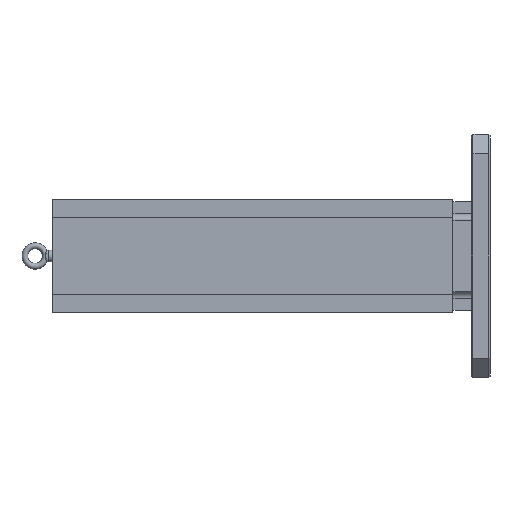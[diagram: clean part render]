
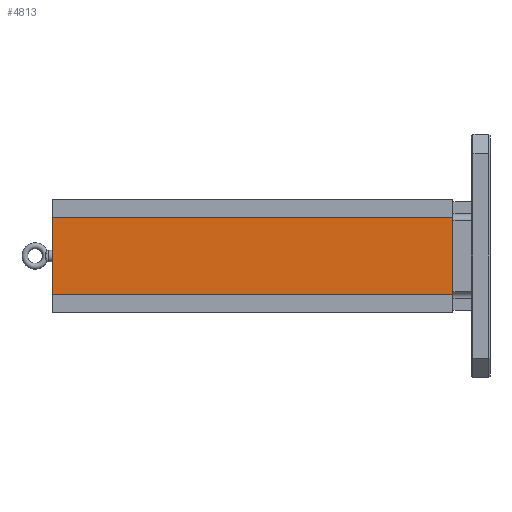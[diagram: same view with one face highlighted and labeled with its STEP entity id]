
A CAD part, left-side view. The second image highlights one B-rep face of the part: STEP entity #4813.
In plain terms, the highlighted planar face has unit normal (-1, 0, 0).
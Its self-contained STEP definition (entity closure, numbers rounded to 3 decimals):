
#121 = VECTOR ( 'NONE', #8504, 1000. ) ;
#544 = DIRECTION ( 'NONE',  ( 0., -1., 0. ) ) ;
#856 = DIRECTION ( 'NONE',  ( 0., 0., -1. ) ) ;
#1040 = FACE_OUTER_BOUND ( 'NONE', #2407, .T. ) ;
#1122 = CARTESIAN_POINT ( 'NONE',  ( -116.992, 862., -79.273 ) ) ;
#1157 = CARTESIAN_POINT ( 'NONE',  ( -116.992, 862., 79.273 ) ) ;
#1287 = VECTOR ( 'NONE', #856, 1000. ) ;
#1944 = EDGE_CURVE ( 'NONE', #5973, #7690, #5229, .T. ) ;
#2308 = CARTESIAN_POINT ( 'NONE',  ( -116.992, 862., 79.273 ) ) ;
#2407 = EDGE_LOOP ( 'NONE', ( #4145, #6854, #3782, #7175 ) ) ;
#3215 = LINE ( 'NONE', #2308, #8549 ) ;
#3782 = ORIENTED_EDGE ( 'NONE', *, *, #7495, .F. ) ;
#4113 = LINE ( 'NONE', #1122, #121 ) ;
#4145 = ORIENTED_EDGE ( 'NONE', *, *, #6615, .F. ) ;
#4225 = CARTESIAN_POINT ( 'NONE',  ( -116.992, 862., -79.273 ) ) ;
#4813 = ADVANCED_FACE ( 'NONE', ( #1040 ), #7558, .F. ) ;
#4875 = CARTESIAN_POINT ( 'NONE',  ( -116.992, 862., -79.273 ) ) ;
#5125 = VERTEX_POINT ( 'NONE', #1157 ) ;
#5229 = LINE ( 'NONE', #10705, #11376 ) ;
#5725 = CARTESIAN_POINT ( 'NONE',  ( -116.992, 38.1, 79.273 ) ) ;
#5973 = VERTEX_POINT ( 'NONE', #4225 ) ;
#6179 = EDGE_CURVE ( 'NONE', #5125, #6837, #3215, .T. ) ;
#6586 = DIRECTION ( 'NONE',  ( 1., 0., 0. ) ) ;
#6615 = EDGE_CURVE ( 'NONE', #6837, #7690, #7493, .T. ) ;
#6837 = VERTEX_POINT ( 'NONE', #5725 ) ;
#6854 = ORIENTED_EDGE ( 'NONE', *, *, #6179, .F. ) ;
#7175 = ORIENTED_EDGE ( 'NONE', *, *, #1944, .T. ) ;
#7437 = CARTESIAN_POINT ( 'NONE',  ( -116.992, 38.1, -79.273 ) ) ;
#7493 = LINE ( 'NONE', #7437, #1287 ) ;
#7495 = EDGE_CURVE ( 'NONE', #5973, #5125, #4113, .T. ) ;
#7558 = PLANE ( 'NONE',  #11911 ) ;
#7684 = DIRECTION ( 'NONE',  ( 0., 0., -1. ) ) ;
#7690 = VERTEX_POINT ( 'NONE', #9212 ) ;
#8504 = DIRECTION ( 'NONE',  ( 0., 0., 1. ) ) ;
#8549 = VECTOR ( 'NONE', #544, 1000. ) ;
#8886 = DIRECTION ( 'NONE',  ( 0., -1., 0. ) ) ;
#9212 = CARTESIAN_POINT ( 'NONE',  ( -116.992, 38.1, -79.273 ) ) ;
#10705 = CARTESIAN_POINT ( 'NONE',  ( -116.992, 862., -79.273 ) ) ;
#11376 = VECTOR ( 'NONE', #8886, 1000. ) ;
#11911 = AXIS2_PLACEMENT_3D ( 'NONE', #4875, #6586, #7684 ) ;
